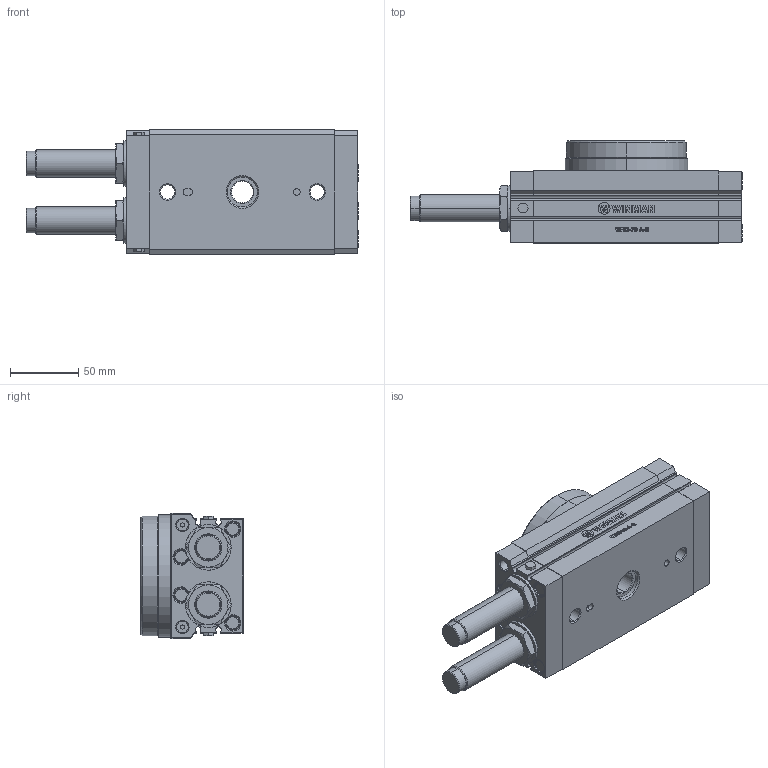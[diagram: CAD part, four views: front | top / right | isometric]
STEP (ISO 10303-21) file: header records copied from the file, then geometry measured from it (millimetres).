
FILE_DESCRIPTION (( 'STEP AP214' ), '1' );
FILE_NAME ('WRQ-70-A-G (3D).STEP', '2022-03-03T13:39:14', ( '' ), ( '' ), 'SwSTEP 2.0', 'SolidWorks 2016', '' );
FILE_SCHEMA (( 'AUTOMOTIVE_DESIGN' ));
Length unit declared in the file: millimetre
Products named in the file (3): WRQ-70-A-G_body; WRQ-70-A-G (3D); WRQ-70-A-G_table
Assembly tree (2 placements, depth 2):
  WRQ-70-A-G (3D)
    WRQ-70-A-G_body
    WRQ-70-A-G_table
Bounding box: 244 x 75 x 92 mm (x, y, z)
Volume: 908709.5 mm3; surface area: 110544 mm2
Topology: 2 solids, 2 shells, 745 faces, 1766 edges, 1127 vertices
Faces by surface type: plane 338, cylinder 180, cone 155, bspline 48, torus 24
Entity records: 32279 total; most frequent: CARTESIAN_POINT 6628, DIRECTION 3642, ORIENTED_EDGE 3530, EDGE_CURVE 1765, AXIS2_PLACEMENT_3D 1319, VERTEX_POINT 1127, LINE 1004, VECTOR 1004
